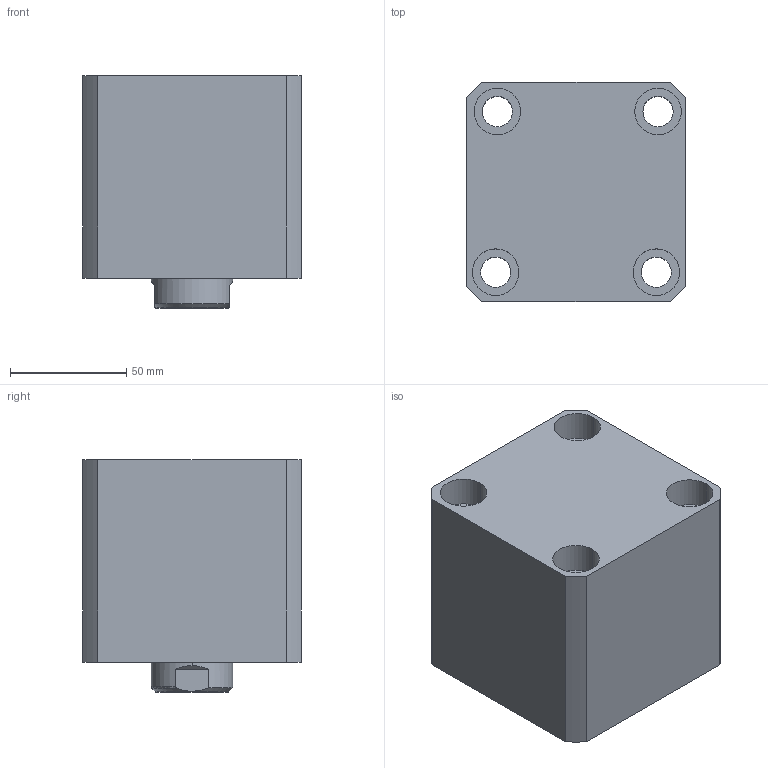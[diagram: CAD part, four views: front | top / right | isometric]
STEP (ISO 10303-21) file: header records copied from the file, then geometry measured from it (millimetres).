
FILE_DESCRIPTION (( 'STEP AP214' ), '1' );
FILE_NAME ('chtb-sdma63x20n_asm.STEP', '2018-05-16T02:20:57', ( 'Windows' ), ( 'Microsoft' ), 'SwSTEP 2.0', 'SolidWorks 2015', '' );
FILE_SCHEMA (( 'AUTOMOTIVE_DESIGN' ));
Length unit declared in the file: millimetre
Products named in the file (4): CHTB63X20NHSG; CHTB-63QG; chtb-sdma63x20n_asm; CHTB-SDMA63X20NBT
Assembly tree (3 placements, depth 2):
  chtb-sdma63x20n_asm
    CHTB-63QG
    CHTB63X20NHSG
    CHTB-SDMA63X20NBT
Bounding box: 94 x 94 x 100 mm (x, y, z)
Volume: 654038.3 mm3; surface area: 120169.7 mm2
Topology: 3 solids, 3 shells, 165 faces, 472 edges, 321 vertices
Faces by surface type: cylinder 107, plane 31, bspline 12, cone 8, torus 7
Entity records: 17727 total; most frequent: CARTESIAN_POINT 13576, ORIENTED_EDGE 932, DIRECTION 716, EDGE_CURVE 466, VERTEX_POINT 321, AXIS2_PLACEMENT_3D 288, EDGE_LOOP 197, ADVANCED_FACE 165
